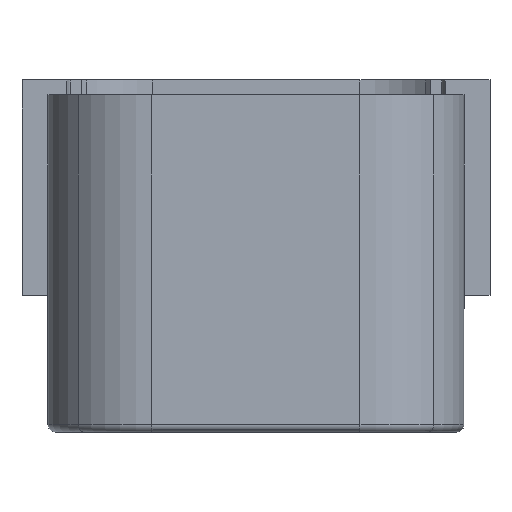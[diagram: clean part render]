
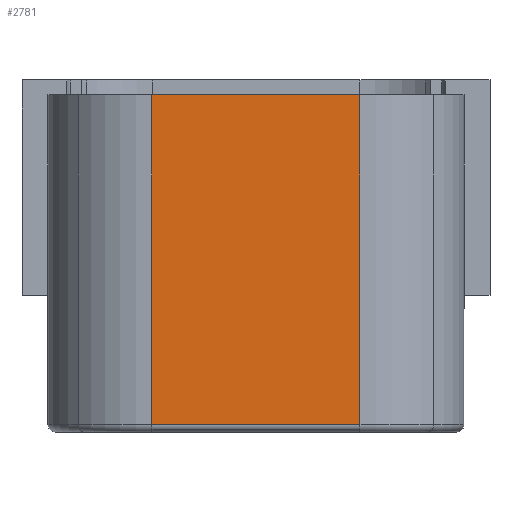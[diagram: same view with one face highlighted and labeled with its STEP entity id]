
A CAD part, front view. The second image highlights one B-rep face of the part: STEP entity #2781.
In plain terms, the highlighted planar face has unit normal (0, -1, 0).
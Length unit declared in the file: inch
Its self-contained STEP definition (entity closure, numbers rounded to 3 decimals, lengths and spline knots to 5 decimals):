
#1887 = VERTEX_POINT( '', #5324 );
#2309 = VERTEX_POINT( '', #5783 );
#2781 = ADVANCED_FACE( '', ( #6294 ), #6295, .F. );
#3047 = EDGE_CURVE( '', #4047, #2309, #6582, .T. );
#3907 = EDGE_CURVE( '', #4239, #1887, #7524, .T. );
#3915 = EDGE_CURVE( '', #4239, #4047, #7533, .T. );
#4047 = VERTEX_POINT( '', #7684 );
#4239 = VERTEX_POINT( '', #7900 );
#4253 = EDGE_CURVE( '', #2309, #1887, #7914, .T. );
#5324 = CARTESIAN_POINT( '', ( -0.55118, -2.00787, 1.7874 ) );
#5783 = CARTESIAN_POINT( '', ( -0.55118, -2.00787, 0.03937 ) );
#6294 = FACE_OUTER_BOUND( '', #11152, .T. );
#6295 = PLANE( '', #11153 );
#6582 = LINE( '', #12058, #12059 );
#7524 = LINE( '', #13801, #13802 );
#7533 = LINE( '', #13814, #13815 );
#7684 = CARTESIAN_POINT( '', ( 0.55118, -2.00787, 0.03937 ) );
#7900 = CARTESIAN_POINT( '', ( 0.55118, -2.00787, 1.7874 ) );
#7914 = LINE( '', #14414, #14415 );
#11152 = EDGE_LOOP( '', ( #17291, #17292, #17293, #17294 ) );
#11153 = AXIS2_PLACEMENT_3D( '', #17295, #17296, #17297 );
#12058 = CARTESIAN_POINT( '', ( 0., -2.00787, 0.03937 ) );
#12059 = VECTOR( '', #17607, 1. );
#13801 = CARTESIAN_POINT( '', ( -0.2154, -2.00787, 1.7874 ) );
#13802 = VECTOR( '', #18666, 1. );
#13814 = CARTESIAN_POINT( '', ( 0.55118, -2.00787, 0.25197 ) );
#13815 = VECTOR( '', #18676, 1. );
#14414 = CARTESIAN_POINT( '', ( -0.55118, -2.00787, 0.25197 ) );
#14415 = VECTOR( '', #19203, 1. );
#17291 = ORIENTED_EDGE( '', *, *, #3047, .F. );
#17292 = ORIENTED_EDGE( '', *, *, #3915, .F. );
#17293 = ORIENTED_EDGE( '', *, *, #3907, .T. );
#17294 = ORIENTED_EDGE( '', *, *, #4253, .F. );
#17295 = CARTESIAN_POINT( '', ( 0., -2.00787, 0.25197 ) );
#17296 = DIRECTION( '', ( 0., 1., 0. ) );
#17297 = DIRECTION( '', ( 0., 0., -1. ) );
#17607 = DIRECTION( '', ( -1., 0., 0. ) );
#18666 = DIRECTION( '', ( -1., 0., 0. ) );
#18676 = DIRECTION( '', ( 0., 0., -1. ) );
#19203 = DIRECTION( '', ( 0., 0., 1. ) );
